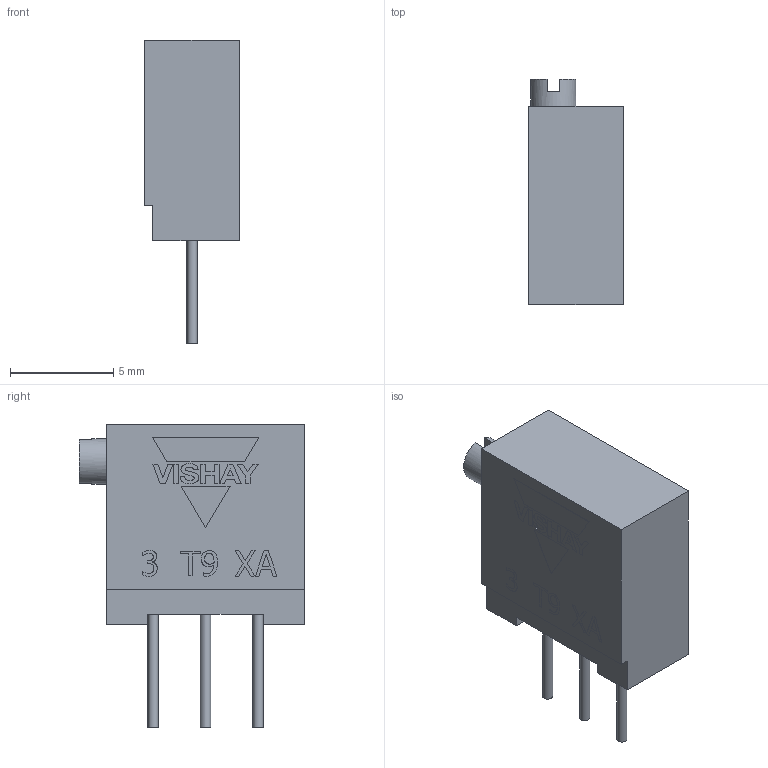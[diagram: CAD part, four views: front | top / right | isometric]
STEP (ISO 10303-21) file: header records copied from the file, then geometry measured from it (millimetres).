
FILE_DESCRIPTION(/* description */ ('Unknown'),/* implementation_level */ '2;1');
FILE_NAME(/* name */ 'T9XA',/* time_stamp */ '2018-01-18T10:49:49+01:00',/* author */ ('Unknown'),/* organization */ ('Unknown'),/* preprocessor_version */ 'ST-DEVELOPER v16.7',/* originating_system */ 'DEX',/* authorisation */ $);
FILE_SCHEMA (('AUTOMOTIVE_DESIGN {1 0 10303 214 3 1 1}'));
Length unit declared in the file: millimetre
Products named in the file (1): Gabarit - T93
Bounding box: 4.6 x 10.9 x 14.7 mm (x, y, z)
Volume: 417.4 mm3; surface area: 398.4 mm2
Topology: 1 solids, 1 shells, 147 faces, 375 edges, 250 vertices
Faces by surface type: plane 129, bspline 14, cylinder 4
Full cylindrical faces by diameter (mm): 0.5 x3, 2.2 x1
Entity records: 5870 total; most frequent: CARTESIAN_POINT 1721, ORIENTED_EDGE 740, DIRECTION 435, EDGE_CURVE 370, VERTEX_POINT 249, B_SPLINE_CURVE_WITH_KNOTS 214, EDGE_LOOP 171, FACE_BOUND 171
